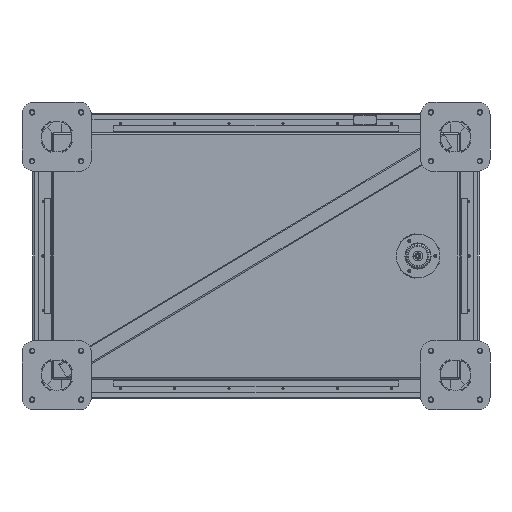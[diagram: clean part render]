
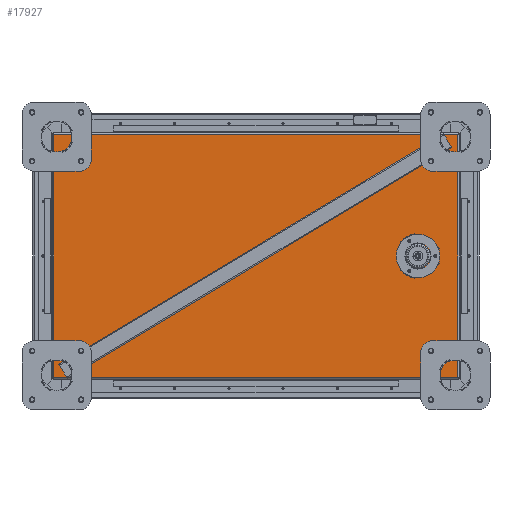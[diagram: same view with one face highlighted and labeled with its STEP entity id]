
A CAD part, front view. The second image highlights one B-rep face of the part: STEP entity #17927.
In plain terms, the highlighted planar face has unit normal (-0.018, -1, 0).
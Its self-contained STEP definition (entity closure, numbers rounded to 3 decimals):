
#2008 = CARTESIAN_POINT ( 'NONE',  ( 499.5, -72.438, 298. ) ) ;
#2204 = DIRECTION ( 'NONE',  ( 0.017, 1., 0. ) ) ;
#2624 = DIRECTION ( 'NONE',  ( -1., 0.017, 0. ) ) ;
#2634 = DIRECTION ( 'NONE',  ( 0., 0., -1. ) ) ;
#3967 = CARTESIAN_POINT ( 'NONE',  ( 495.43, -72.367, 298. ) ) ;
#4828 = VERTEX_POINT ( 'NONE', #3967 ) ;
#5968 = FACE_OUTER_BOUND ( 'NONE', #51794, .T. ) ;
#6144 = CIRCLE ( 'NONE', #42029, 2.45 ) ;
#6951 = DIRECTION ( 'NONE',  ( 0.017, 1., 0. ) ) ;
#7157 = VERTEX_POINT ( 'NONE', #29367 ) ;
#7180 = CARTESIAN_POINT ( 'NONE',  ( 376.198, -70.285, -36.806 ) ) ;
#7214 = CIRCLE ( 'NONE', #48219, 2.45 ) ;
#7533 = EDGE_LOOP ( 'NONE', ( #45886, #34345 ) ) ;
#8381 = FACE_BOUND ( 'NONE', #61392, .T. ) ;
#8603 = VERTEX_POINT ( 'NONE', #27128 ) ;
#8986 = CIRCLE ( 'NONE', #20225, 2.45 ) ;
#9815 = EDGE_CURVE ( 'NONE', #51563, #45774, #19398, .T. ) ;
#10003 = DIRECTION ( 'NONE',  ( 0.017, 1., 0. ) ) ;
#10244 = AXIS2_PLACEMENT_3D ( 'NONE', #7180, #6951, #53712 ) ;
#10709 = CARTESIAN_POINT ( 'NONE',  ( 378.648, -70.328, 36.806 ) ) ;
#11082 = VERTEX_POINT ( 'NONE', #53973 ) ;
#12129 = DIRECTION ( 'NONE',  ( -1., 0.017, 0. ) ) ;
#13371 = ORIENTED_EDGE ( 'NONE', *, *, #16270, .T. ) ;
#13758 = CARTESIAN_POINT ( 'NONE',  ( -495.57, -55.069, -298. ) ) ;
#16270 = EDGE_CURVE ( 'NONE', #45774, #51563, #6144, .T. ) ;
#16892 = VECTOR ( 'NONE', #53407, 1000. ) ;
#17927 = ADVANCED_FACE ( 'NONE', ( #29455, #8381, #55248, #58470, #5968 ), #49198, .F. ) ;
#18508 = ORIENTED_EDGE ( 'NONE', *, *, #32622, .T. ) ;
#18546 = DIRECTION ( 'NONE',  ( -1., 0.017, 0. ) ) ;
#18680 = EDGE_CURVE ( 'NONE', #20012, #11082, #8986, .T. ) ;
#18841 = CARTESIAN_POINT ( 'NONE',  ( 442.388, -71.441, 0. ) ) ;
#19398 = CIRCLE ( 'NONE', #54914, 2.45 ) ;
#19719 = CARTESIAN_POINT ( 'NONE',  ( 376.198, -70.285, -36.806 ) ) ;
#19793 = EDGE_CURVE ( 'NONE', #8603, #48659, #35459, .T. ) ;
#20012 = VERTEX_POINT ( 'NONE', #10709 ) ;
#20225 = AXIS2_PLACEMENT_3D ( 'NONE', #43596, #23571, #18546 ) ;
#20645 = CARTESIAN_POINT ( 'NONE',  ( 427.69, -71.184, 0. ) ) ;
#21556 = LINE ( 'NONE', #2008, #62757 ) ;
#23571 = DIRECTION ( 'NONE',  ( 0.017, 1., 0. ) ) ;
#24140 = ORIENTED_EDGE ( 'NONE', *, *, #54170, .T. ) ;
#25076 = CARTESIAN_POINT ( 'NONE',  ( 397.445, -70.656, 0. ) ) ;
#26147 = CARTESIAN_POINT ( 'NONE',  ( 376.198, -70.285, 36.806 ) ) ;
#27008 = CARTESIAN_POINT ( 'NONE',  ( 437.489, -71.355, 0. ) ) ;
#27128 = CARTESIAN_POINT ( 'NONE',  ( 367.199, -70.128, 0. ) ) ;
#27787 = EDGE_LOOP ( 'NONE', ( #58381, #65513 ) ) ;
#27826 = CARTESIAN_POINT ( 'NONE',  ( -495.57, -55.069, 298. ) ) ;
#27920 = AXIS2_PLACEMENT_3D ( 'NONE', #54385, #2204, #59589 ) ;
#28699 = EDGE_CURVE ( 'NONE', #4828, #49155, #29499, .T. ) ;
#29367 = CARTESIAN_POINT ( 'NONE',  ( 378.648, -70.328, -36.806 ) ) ;
#29455 = FACE_BOUND ( 'NONE', #27787, .T. ) ;
#29499 = LINE ( 'NONE', #51327, #53584 ) ;
#29842 = CARTESIAN_POINT ( 'NONE',  ( 495.43, -72.367, -298. ) ) ;
#30642 = ORIENTED_EDGE ( 'NONE', *, *, #28699, .F. ) ;
#30746 = VECTOR ( 'NONE', #2634, 1000. ) ;
#31151 = EDGE_CURVE ( 'NONE', #48659, #8603, #44087, .T. ) ;
#32204 = CARTESIAN_POINT ( 'NONE',  ( 499.5, -72.438, -298. ) ) ;
#32622 = EDGE_CURVE ( 'NONE', #33118, #46233, #36368, .T. ) ;
#32914 = CIRCLE ( 'NONE', #59050, 2.45 ) ;
#33118 = VERTEX_POINT ( 'NONE', #27826 ) ;
#33146 = AXIS2_PLACEMENT_3D ( 'NONE', #54121, #64610, #2624 ) ;
#33395 = CARTESIAN_POINT ( 'NONE',  ( -495.57, -55.069, 298. ) ) ;
#34057 = DIRECTION ( 'NONE',  ( 0.017, 1., 0. ) ) ;
#34345 = ORIENTED_EDGE ( 'NONE', *, *, #31151, .T. ) ;
#35459 = CIRCLE ( 'NONE', #49296, 30.25 ) ;
#36368 = LINE ( 'NONE', #33395, #30746 ) ;
#38153 = DIRECTION ( 'NONE',  ( 0.017, 1., 0. ) ) ;
#40022 = DIRECTION ( 'NONE',  ( -1., 0.017, 0. ) ) ;
#40814 = DIRECTION ( 'NONE',  ( -1., 0.017, 0. ) ) ;
#40987 = CARTESIAN_POINT ( 'NONE',  ( 439.938, -71.398, 0. ) ) ;
#42029 = AXIS2_PLACEMENT_3D ( 'NONE', #40987, #10003, #46215 ) ;
#43596 = CARTESIAN_POINT ( 'NONE',  ( 376.198, -70.285, 36.806 ) ) ;
#44087 = CIRCLE ( 'NONE', #27920, 30.25 ) ;
#44406 = LINE ( 'NONE', #32204, #16892 ) ;
#45774 = VERTEX_POINT ( 'NONE', #18841 ) ;
#45886 = ORIENTED_EDGE ( 'NONE', *, *, #19793, .T. ) ;
#46006 = EDGE_CURVE ( 'NONE', #33118, #4828, #21556, .T. ) ;
#46078 = EDGE_CURVE ( 'NONE', #7157, #55038, #52218, .T. ) ;
#46215 = DIRECTION ( 'NONE',  ( -1., 0.017, 0. ) ) ;
#46233 = VERTEX_POINT ( 'NONE', #13758 ) ;
#48219 = AXIS2_PLACEMENT_3D ( 'NONE', #26147, #52275, #62262 ) ;
#48308 = EDGE_CURVE ( 'NONE', #11082, #20012, #7214, .T. ) ;
#48659 = VERTEX_POINT ( 'NONE', #20645 ) ;
#49155 = VERTEX_POINT ( 'NONE', #29842 ) ;
#49198 = PLANE ( 'NONE',  #33146 ) ;
#49296 = AXIS2_PLACEMENT_3D ( 'NONE', #25076, #34057, #40814 ) ;
#49960 = ORIENTED_EDGE ( 'NONE', *, *, #9815, .T. ) ;
#51327 = CARTESIAN_POINT ( 'NONE',  ( 495.43, -72.367, 298. ) ) ;
#51563 = VERTEX_POINT ( 'NONE', #27008 ) ;
#51794 = EDGE_LOOP ( 'NONE', ( #58821, #30642, #52664, #18508 ) ) ;
#52218 = CIRCLE ( 'NONE', #10244, 2.45 ) ;
#52275 = DIRECTION ( 'NONE',  ( 0.017, 1., 0. ) ) ;
#52664 = ORIENTED_EDGE ( 'NONE', *, *, #46006, .F. ) ;
#53407 = DIRECTION ( 'NONE',  ( 1., -0.017, 0. ) ) ;
#53501 = CARTESIAN_POINT ( 'NONE',  ( 373.748, -70.243, -36.806 ) ) ;
#53541 = EDGE_CURVE ( 'NONE', #46233, #49155, #44406, .T. ) ;
#53584 = VECTOR ( 'NONE', #62175, 1000. ) ;
#53712 = DIRECTION ( 'NONE',  ( -1., 0.017, 0. ) ) ;
#53973 = CARTESIAN_POINT ( 'NONE',  ( 373.748, -70.243, 36.806 ) ) ;
#54121 = CARTESIAN_POINT ( 'NONE',  ( 499.5, -72.438, 298. ) ) ;
#54170 = EDGE_CURVE ( 'NONE', #55038, #7157, #32914, .T. ) ;
#54385 = CARTESIAN_POINT ( 'NONE',  ( 397.445, -70.656, 0. ) ) ;
#54485 = ORIENTED_EDGE ( 'NONE', *, *, #46078, .T. ) ;
#54914 = AXIS2_PLACEMENT_3D ( 'NONE', #63751, #38153, #12129 ) ;
#55038 = VERTEX_POINT ( 'NONE', #53501 ) ;
#55138 = DIRECTION ( 'NONE',  ( 0.017, 1., 0. ) ) ;
#55248 = FACE_BOUND ( 'NONE', #64707, .T. ) ;
#58381 = ORIENTED_EDGE ( 'NONE', *, *, #48308, .T. ) ;
#58470 = FACE_BOUND ( 'NONE', #7533, .T. ) ;
#58821 = ORIENTED_EDGE ( 'NONE', *, *, #53541, .T. ) ;
#59050 = AXIS2_PLACEMENT_3D ( 'NONE', #19719, #55138, #40022 ) ;
#59589 = DIRECTION ( 'NONE',  ( -1., 0.017, 0. ) ) ;
#61392 = EDGE_LOOP ( 'NONE', ( #24140, #54485 ) ) ;
#62175 = DIRECTION ( 'NONE',  ( 0., 0., -1. ) ) ;
#62262 = DIRECTION ( 'NONE',  ( -1., 0.017, 0. ) ) ;
#62757 = VECTOR ( 'NONE', #63985, 1000. ) ;
#63751 = CARTESIAN_POINT ( 'NONE',  ( 439.938, -71.398, 0. ) ) ;
#63985 = DIRECTION ( 'NONE',  ( 1., -0.017, 0. ) ) ;
#64610 = DIRECTION ( 'NONE',  ( 0.017, 1., 0. ) ) ;
#64707 = EDGE_LOOP ( 'NONE', ( #49960, #13371 ) ) ;
#65513 = ORIENTED_EDGE ( 'NONE', *, *, #18680, .T. ) ;
